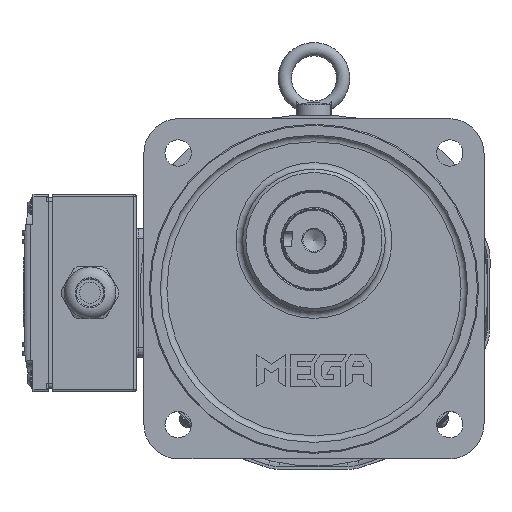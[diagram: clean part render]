
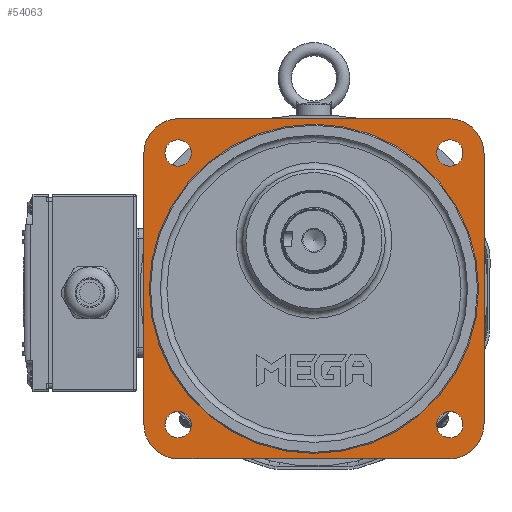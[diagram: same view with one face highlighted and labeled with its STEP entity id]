
A CAD part, top view. The second image highlights one B-rep face of the part: STEP entity #54063.
In plain terms, the highlighted planar face has unit normal (0, 0, 1).
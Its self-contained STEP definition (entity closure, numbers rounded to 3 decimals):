
#4374=LINE('',#83628,#7192);
#4386=LINE('',#83696,#7204);
#4536=LINE('',#84764,#7354);
#4539=LINE('',#84771,#7357);
#7192=VECTOR('',#66850,10.);
#7204=VECTOR('',#66900,10.);
#7354=VECTOR('',#67464,10.);
#7357=VECTOR('',#67473,10.);
#10029=FACE_BOUND('',#14376,.T.);
#10030=FACE_BOUND('',#14377,.T.);
#10031=FACE_BOUND('',#14378,.T.);
#10032=FACE_BOUND('',#14379,.T.);
#10033=FACE_BOUND('',#14380,.T.);
#11054=FACE_OUTER_BOUND('',#14375,.T.);
#14375=EDGE_LOOP('',(#37815,#37816,#37817,#37818,#37819,#37820,#37821,#37822));
#14376=EDGE_LOOP('',(#37823));
#14377=EDGE_LOOP('',(#37824));
#14378=EDGE_LOOP('',(#37825));
#14379=EDGE_LOOP('',(#37826));
#14380=EDGE_LOOP('',(#37827));
#17733=CIRCLE('',#58142,16.);
#17741=CIRCLE('',#58154,6.);
#17743=CIRCLE('',#58157,6.);
#17745=CIRCLE('',#58160,6.);
#17746=CIRCLE('',#58162,6.);
#17820=CIRCLE('',#58332,16.);
#17842=CIRCLE('',#58369,16.);
#17843=CIRCLE('',#58372,16.);
#17844=CIRCLE('',#58375,75.);
#21556=VERTEX_POINT('',#83618);
#21557=VERTEX_POINT('',#83619);
#21560=VERTEX_POINT('',#83627);
#21575=VERTEX_POINT('',#83675);
#21577=VERTEX_POINT('',#83681);
#21579=VERTEX_POINT('',#83687);
#21580=VERTEX_POINT('',#83691);
#21581=VERTEX_POINT('',#83695);
#21716=VERTEX_POINT('',#84348);
#21729=VERTEX_POINT('',#84759);
#21730=VERTEX_POINT('',#84763);
#21731=VERTEX_POINT('',#84767);
#21732=VERTEX_POINT('',#84773);
#27281=EDGE_CURVE('',#21556,#21557,#17733,.T.);
#27285=EDGE_CURVE('',#21557,#21560,#4374,.T.);
#27301=EDGE_CURVE('',#21575,#21575,#17741,.T.);
#27304=EDGE_CURVE('',#21577,#21577,#17743,.T.);
#27307=EDGE_CURVE('',#21579,#21579,#17745,.T.);
#27309=EDGE_CURVE('',#21580,#21580,#17746,.T.);
#27311=EDGE_CURVE('',#21581,#21556,#4386,.T.);
#27541=EDGE_CURVE('',#21560,#21716,#17820,.T.);
#27576=EDGE_CURVE('',#21729,#21581,#17842,.T.);
#27578=EDGE_CURVE('',#21730,#21729,#4536,.T.);
#27580=EDGE_CURVE('',#21731,#21730,#17843,.T.);
#27582=EDGE_CURVE('',#21716,#21731,#4539,.T.);
#27583=EDGE_CURVE('',#21732,#21732,#17844,.T.);
#37815=ORIENTED_EDGE('',*,*,#27311,.F.);
#37816=ORIENTED_EDGE('',*,*,#27576,.F.);
#37817=ORIENTED_EDGE('',*,*,#27578,.F.);
#37818=ORIENTED_EDGE('',*,*,#27580,.F.);
#37819=ORIENTED_EDGE('',*,*,#27582,.F.);
#37820=ORIENTED_EDGE('',*,*,#27541,.F.);
#37821=ORIENTED_EDGE('',*,*,#27285,.F.);
#37822=ORIENTED_EDGE('',*,*,#27281,.F.);
#37823=ORIENTED_EDGE('',*,*,#27309,.F.);
#37824=ORIENTED_EDGE('',*,*,#27307,.F.);
#37825=ORIENTED_EDGE('',*,*,#27304,.F.);
#37826=ORIENTED_EDGE('',*,*,#27301,.F.);
#37827=ORIENTED_EDGE('',*,*,#27583,.F.);
#49314=PLANE('',#58374);
#54063=ADVANCED_FACE('',(#11054,#10029,#10030,#10031,#10032,#10033),#49314,
 .F.);
#58142=AXIS2_PLACEMENT_3D('',#83620,#66842,#66843);
#58154=AXIS2_PLACEMENT_3D('',#83676,#66876,#66877);
#58157=AXIS2_PLACEMENT_3D('',#83682,#66883,#66884);
#58160=AXIS2_PLACEMENT_3D('',#83688,#66890,#66891);
#58162=AXIS2_PLACEMENT_3D('',#83692,#66895,#66896);
#58332=AXIS2_PLACEMENT_3D('',#84349,#67376,#67377);
#58369=AXIS2_PLACEMENT_3D('',#84760,#67459,#67460);
#58372=AXIS2_PLACEMENT_3D('',#84768,#67468,#67469);
#58374=AXIS2_PLACEMENT_3D('',#84772,#67474,#67475);
#58375=AXIS2_PLACEMENT_3D('',#84774,#67476,#67477);
#66842=DIRECTION('center_axis',(0.,0.,-1.));
#66843=DIRECTION('ref_axis',(1.,0.,0.));
#66850=DIRECTION('',(0.,-1.,0.));
#66876=DIRECTION('center_axis',(0.,0.,1.));
#66877=DIRECTION('ref_axis',(-1.,0.,0.));
#66883=DIRECTION('center_axis',(0.,0.,1.));
#66884=DIRECTION('ref_axis',(-1.,0.,0.));
#66890=DIRECTION('center_axis',(0.,0.,1.));
#66891=DIRECTION('ref_axis',(-1.,0.,0.));
#66895=DIRECTION('center_axis',(0.,0.,1.));
#66896=DIRECTION('ref_axis',(-1.,0.,0.));
#66900=DIRECTION('',(1.,0.,0.));
#67376=DIRECTION('center_axis',(0.,0.,-1.));
#67377=DIRECTION('ref_axis',(0.,-1.,0.));
#67459=DIRECTION('center_axis',(0.,0.,-1.));
#67460=DIRECTION('ref_axis',(0.,1.,0.));
#67464=DIRECTION('',(0.,1.,0.));
#67468=DIRECTION('center_axis',(0.,0.,-1.));
#67469=DIRECTION('ref_axis',(-1.,0.,0.));
#67473=DIRECTION('',(-1.,0.,0.));
#67474=DIRECTION('center_axis',(0.,0.,-1.));
#67475=DIRECTION('ref_axis',(-1.,0.,0.));
#67476=DIRECTION('center_axis',(0.,0.,1.));
#67477=DIRECTION('ref_axis',(-1.,0.,0.));
#83618=CARTESIAN_POINT('',(24.799,104.662,40.5));
#83619=CARTESIAN_POINT('',(40.799,88.662,40.5));
#83620=CARTESIAN_POINT('Origin',(24.799,88.662,40.5));
#83627=CARTESIAN_POINT('',(40.799,-34.338,40.5));
#83628=CARTESIAN_POINT('',(40.799,57.912,40.5));
#83675=CARTESIAN_POINT('',(-92.572,89.034,40.5));
#83676=CARTESIAN_POINT('Origin',(-98.572,89.034,40.5));
#83681=CARTESIAN_POINT('',(31.171,89.034,40.5));
#83682=CARTESIAN_POINT('Origin',(25.171,89.034,40.5));
#83687=CARTESIAN_POINT('',(-92.572,-34.709,40.5));
#83688=CARTESIAN_POINT('Origin',(-98.572,-34.709,40.5));
#83691=CARTESIAN_POINT('',(31.171,-34.709,40.5));
#83692=CARTESIAN_POINT('Origin',(25.171,-34.709,40.5));
#83695=CARTESIAN_POINT('',(-98.201,104.662,40.5));
#83696=CARTESIAN_POINT('',(-67.451,104.662,40.5));
#84348=CARTESIAN_POINT('',(24.799,-50.338,40.5));
#84349=CARTESIAN_POINT('Origin',(24.799,-34.338,40.5));
#84759=CARTESIAN_POINT('',(-114.201,88.662,40.5));
#84760=CARTESIAN_POINT('Origin',(-98.201,88.662,40.5));
#84763=CARTESIAN_POINT('',(-114.201,-34.338,40.5));
#84764=CARTESIAN_POINT('',(-114.201,-3.588,40.5));
#84767=CARTESIAN_POINT('',(-98.201,-50.338,40.5));
#84768=CARTESIAN_POINT('Origin',(-98.201,-34.338,40.5));
#84771=CARTESIAN_POINT('',(-5.951,-50.338,40.5));
#84772=CARTESIAN_POINT('Origin',(-36.701,27.162,40.5));
#84773=CARTESIAN_POINT('',(38.299,27.162,40.5));
#84774=CARTESIAN_POINT('Origin',(-36.701,27.162,40.5));
